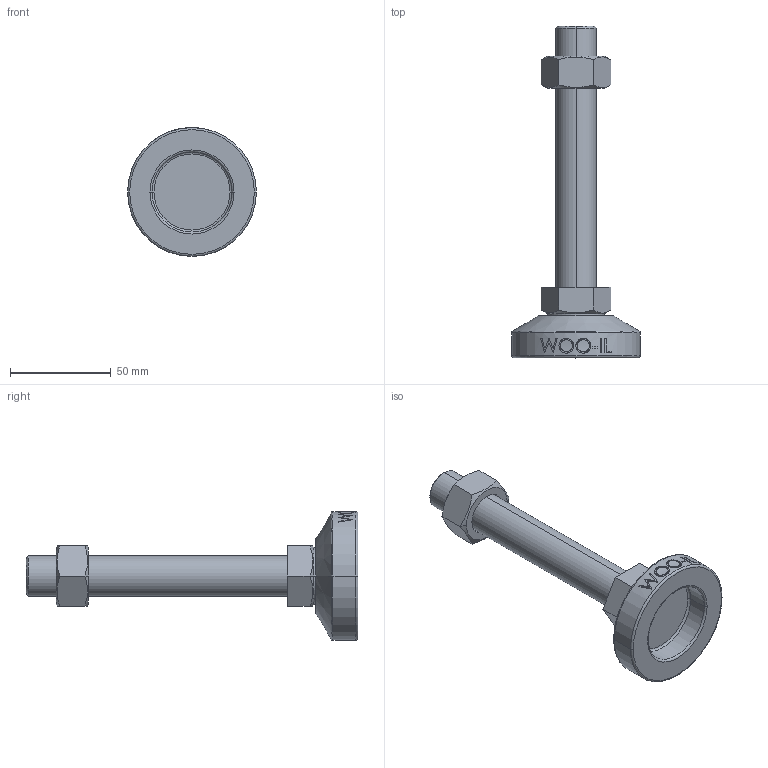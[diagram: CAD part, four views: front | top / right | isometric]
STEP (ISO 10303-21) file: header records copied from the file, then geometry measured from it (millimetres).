
FILE_DESCRIPTION (( 'STEP AP214' ), '1' );
FILE_NAME ('MFZ64-M20-130.step', '2021-01-15T07:07:01', ( '' ), ( '' ), 'SwSTEP 2.0', 'SolidWorks 2019', '' );
FILE_SCHEMA (( 'AUTOMOTIVE_DESIGN' ));
Length unit declared in the file: millimetre
Products named in the file (2): MFZ64-M20-130
Bounding box: 64 x 165 x 64 mm (x, y, z)
Volume: 102629.6 mm3; surface area: 25139.5 mm2
Topology: 3 solids, 3 shells, 106 faces, 243 edges, 154 vertices
Faces by surface type: plane 48, cylinder 18, bspline 16, cone 14, torus 10
Entity records: 4532 total; most frequent: CARTESIAN_POINT 2189, ORIENTED_EDGE 486, DIRECTION 439, EDGE_CURVE 243, AXIS2_PLACEMENT_3D 170, VERTEX_POINT 154, EDGE_LOOP 119, ADVANCED_FACE 106
